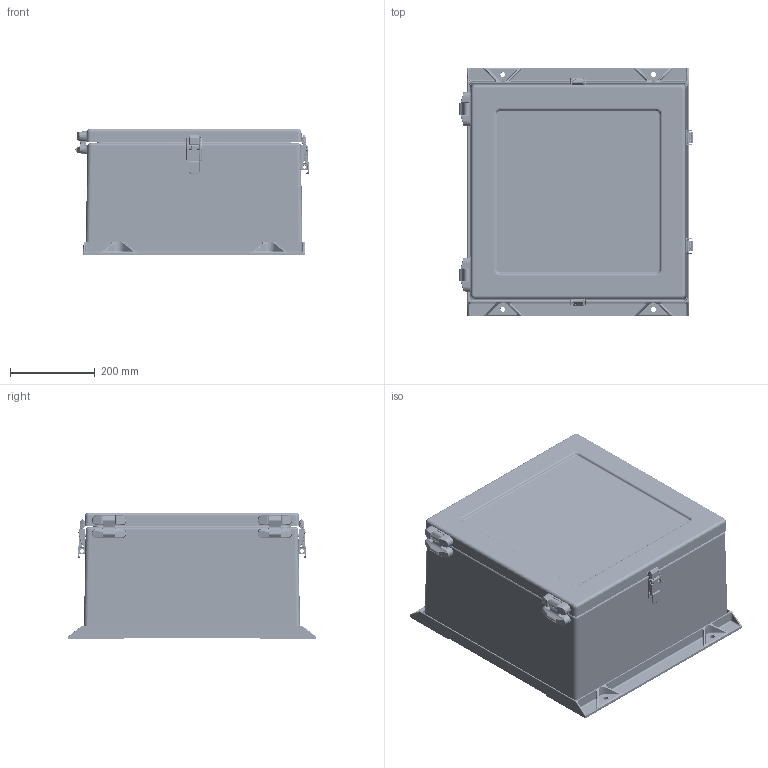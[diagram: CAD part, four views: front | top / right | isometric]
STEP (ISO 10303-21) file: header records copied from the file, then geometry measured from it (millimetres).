
FILE_DESCRIPTION (( 'STEP AP203' ), '1' );
FILE_NAME ('a20h2010gqrlp.STEP', '2012-03-22T19:54:11', ( 'Hoffman User' ), ( 'Hoffman Enclosures' ), 'SwSTEP 2.0', 'SolidWorks 2010', '' );
FILE_SCHEMA (( 'CONFIG_CONTROL_DESIGN' ));
Products named in the file (24): 24352001; 22186001_flex; 11158317_11158317; a20h2010gqrlp; 87926969; 87935458_87935456; 87926955; 87759496_87759496 DOOR CLOSED; 22293001; 87955618; 22292001; 87955597; 87955576; 87949216_87570567; 87926980; 87949250; 87949198_87949198; 87951276_Closed angled bail; 87951273_87951273; 87951274_87951274; 14241007_14241007; 87949197_87949197; 87954688_87954688; 99416061_FLEX
Assembly tree (42 placements, depth 4):
  a20h2010gqrlp
    87926969
      87935458_87935456
      87926955
    87949198_87949198  x4
    87954688_87954688  x4
    99416061_FLEX
      24352001
      22186001_flex
        11158317_11158317  x4
    87949216_87570567
      87949250
      87926980
    87951276_Closed angled bail  x4
      14241007_14241007
      87951273_87951273
      87949197_87949197
      87951274_87951274
    87759496_87759496 DOOR CLOSED  x2
      22293001
        87955576  x2
        87955618
      14241007_14241007
      22292001
        87955576  x2
        87955597
Bounding box: 550.25 x 585.98 x 298.7 mm (x, y, z)
Volume: 5634369.7 mm3; surface area: 2923728.1 mm2
Topology: 53 solids, 53 shells, 7425 faces, 18393 edges, 11032 vertices
Faces by surface type: cylinder 2062, bspline 1966, plane 1881, torus 808, cone 428, sphere 280
Entity records: 122193 total; most frequent: CARTESIAN_POINT 51778, ORIENTED_EDGE 15358, DIRECTION 12283, EDGE_CURVE 7679, VERTEX_POINT 4749, AXIS2_PLACEMENT_3D 4262, LINE 3759, VECTOR 3759
